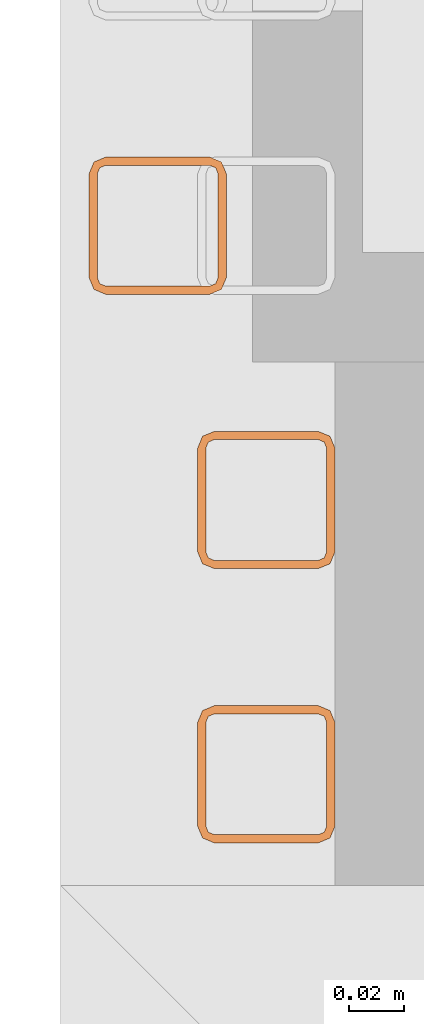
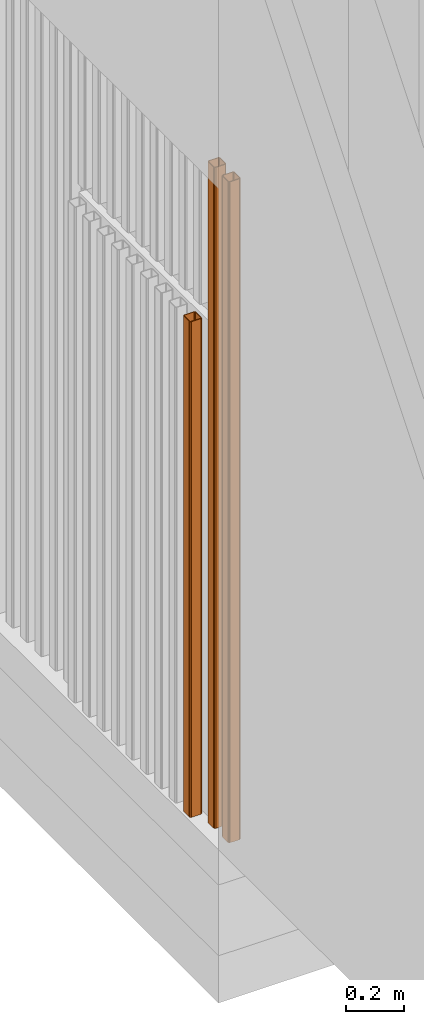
# One storey, part 62 of 112: 3 proxies.
"""IFC2X3 building model written with IfcOpenShell, lengths in millimetres."""

from ifc_helpers import new_model, entity, si_unit, converted_unit, derived_unit, money_unit, direction, frame, origin_with_axes, place, context, subcontext, project, spatial, faceted_brep, source, transform, mapped, material, type_object, element, save


model = new_model("IFC2X3")

# Units and contexts
model_context = context("Model", 3, precision=0.01, world=origin_with_axes(), true_north=direction((0.0, 1.0)))
body_context = subcontext(model_context, "Body", "Model", "MODEL_VIEW")
ifc_project = project(units=[si_unit("LENGTHUNIT", "METRE", prefix="MILLI"), si_unit("AREAUNIT", "SQUARE_METRE"), si_unit("VOLUMEUNIT", "CUBIC_METRE"), converted_unit("PLANEANGLEUNIT", "DEGREE", entity("IfcPlaneAngleMeasure", 0.0174532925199), si_unit("PLANEANGLEUNIT", "RADIAN"), dimensions=[0, 0, 0, 0, 0, 0, 0]), si_unit("SOLIDANGLEUNIT", "STERADIAN"), money_unit("EUR"), converted_unit("TIMEUNIT", "Year", entity("IfcTimeMeasure", 31556926.0), si_unit("TIMEUNIT", "SECOND"), dimensions=[0, 0, 1, 0, 0, 0, 0]), si_unit("MASSUNIT", "GRAM", prefix="KILO"), si_unit("THERMODYNAMICTEMPERATUREUNIT", "DEGREE_CELSIUS"), si_unit("LUMINOUSINTENSITYUNIT", "LUMEN"), si_unit("ENERGYUNIT", "JOULE", prefix="MEGA"), derived_unit("THERMALCONDUCTANCEUNIT", [(si_unit("POWERUNIT", "WATT"), 1), (si_unit("LENGTHUNIT", "METRE"), -1), (si_unit("THERMODYNAMICTEMPERATUREUNIT", "KELVIN"), -1)]), derived_unit("SPECIFICHEATCAPACITYUNIT", [(si_unit("ENERGYUNIT", "JOULE"), 1), (si_unit("MASSUNIT", "GRAM", prefix="KILO"), -1), (si_unit("THERMODYNAMICTEMPERATUREUNIT", "KELVIN"), -1)]), derived_unit("MASSDENSITYUNIT", [(si_unit("MASSUNIT", "GRAM", prefix="KILO"), 1), (si_unit("VOLUMEUNIT", "CUBIC_METRE"), -1)])], contexts=[model_context])

# Site, building, storey
site_placement = place(None, origin_with_axes())
site = spatial("IfcSite", under=ifc_project, at=site_placement, Name="Politse- ja Piirivalveameti ning Päästeameti ühishoone", CompositionType="ELEMENT")
building_placement = place(site_placement, origin_with_axes())
building = spatial("IfcBuilding", under=site, at=building_placement, Name="Politse- ja Piirivalveameti ning Päästeameti ühishoone", CompositionType="ELEMENT")
storey_placement = place(building_placement, origin_with_axes())
storey = spatial("IfcBuildingStorey", under=building, at=storey_placement, Name="Esimene korrus", CompositionType="ELEMENT", Elevation=0.0)

# Proxies
ifc_material = material(Name="ET-05_Teras")
building_element_proxy_type = type_object("IfcBuildingElementProxyType", Name="SHS Cold-Formed Column 23", PredefinedType="NOTDEFINED")
shared_shape_1 = source(origin_with_axes(), body_context, "Body", "Brep", [
    faceted_brep([(19.0, -25.0, 0.0), (19.0, -25.0, 2800.0), (-19.0, -25.0, 2800.0), (-19.0, -25.0, 0.0), (23.2426406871, -23.2426406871, 0.0), (23.2426406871, -23.2426406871, 2800.0), (25.0, -19.0, 2800.0), (25.0, 19.0, 2800.0), (23.2426406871, 23.2426406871, 2800.0), (19.0, 25.0, 2800.0), (-19.0, 25.0, 2800.0), (-23.2426406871, 23.2426406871, 2800.0), (-25.0, 19.0, 2800.0), (-25.0, -19.0, 2800.0), (-23.2426406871, -23.2426406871, 2800.0), (19.0, -22.0, 2800.0), (-19.0, -22.0, 2800.0), (-21.1213203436, -21.1213203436, 2800.0), (-22.0, -19.0, 2800.0), (-22.0, 19.0, 2800.0), (-21.1213203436, 21.1213203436, 2800.0), (-19.0, 22.0, 2800.0), (19.0, 22.0, 2800.0), (21.1213203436, 21.1213203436, 2800.0), (22.0, 19.0, 2800.0), (22.0, -19.0, 2800.0), (21.1213203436, -21.1213203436, 2800.0), (-23.2426406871, -23.2426406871, 0.0), (-25.0, -19.0, 0.0), (-25.0, 19.0, 0.0), (-23.2426406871, 23.2426406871, 0.0), (-19.0, 25.0, 0.0), (19.0, 25.0, 0.0), (23.2426406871, 23.2426406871, 0.0), (25.0, 19.0, 0.0), (25.0, -19.0, 0.0), (19.0, -22.0, 0.0), (21.1213203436, -21.1213203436, 0.0), (22.0, -19.0, 0.0), (22.0, 19.0, 0.0), (21.1213203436, 21.1213203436, 0.0), (19.0, 22.0, 0.0), (-19.0, 22.0, 0.0), (-21.1213203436, 21.1213203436, 0.0), (-22.0, 19.0, 0.0), (-22.0, -19.0, 0.0), (-21.1213203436, -21.1213203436, 0.0), (-19.0, -22.0, 0.0)], [[[0, 1, 2, 3]], [[4, 5, 1, 0]], [[1, 5, 6, 7, 8, 9, 10, 11, 12, 13, 14, 2], [15, 16, 17, 18, 19, 20, 21, 22, 23, 24, 25, 26]], [[3, 2, 14, 27]], [[0, 3, 27, 28, 29, 30, 31, 32, 33, 34, 35, 4], [36, 37, 38, 39, 40, 41, 42, 43, 44, 45, 46, 47]], [[35, 6, 5, 4]], [[34, 7, 6, 35]], [[33, 8, 7, 34]], [[32, 9, 8, 33]], [[31, 10, 9, 32]], [[30, 11, 10, 31]], [[29, 12, 11, 30]], [[28, 13, 12, 29]], [[27, 14, 13, 28]], [[47, 16, 15, 36]], [[46, 17, 16, 47]], [[45, 18, 17, 46]], [[44, 19, 18, 45]], [[43, 20, 19, 44]], [[42, 21, 20, 43]], [[41, 22, 21, 42]], [[40, 23, 22, 41]], [[39, 24, 23, 40]], [[38, 25, 24, 39]], [[37, 26, 25, 38]], [[36, 15, 26, 37]]]),
])
for number, where, z_axis, x_axis in (
    (1, (-434.917037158, 16650.499859, 0.0), (0.0, 0.0, 1.0), (-1.0, -1.30049817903e-07, 0.0)),
    (2, (-434.917024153, 16550.499859, 0.0), (0.0, 0.0, 1.0), (-1.0, -1.30049817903e-07, 0.0)),
):
    element("IfcBuildingElementProxy", number, at=place(storey_placement, frame(where, z_axis=z_axis, x_axis=x_axis)), inside=storey, type_object=building_element_proxy_type, material=ifc_material, Name="Fassaadiribid", context=body_context, shape_type="MappedRepresentation", body=[
        mapped(shared_shape_1, transform((0.0, 0.0, 0.0))),
    ])
shared_shape_2 = source(origin_with_axes(), body_context, "Body", "Brep", [
    faceted_brep([(19.0, -25.0, 0.0), (19.0, -25.0, 2100.0), (-19.0, -25.0, 2100.0), (-19.0, -25.0, 0.0), (23.2426406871, -23.2426406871, 0.0), (23.2426406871, -23.2426406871, 2100.0), (25.0, -19.0, 2100.0), (25.0, 19.0, 2100.0), (23.2426406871, 23.2426406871, 2100.0), (19.0, 25.0, 2100.0), (-19.0, 25.0, 2100.0), (-23.2426406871, 23.2426406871, 2100.0), (-25.0, 19.0, 2100.0), (-25.0, -19.0, 2100.0), (-23.2426406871, -23.2426406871, 2100.0), (19.0, -22.0, 2100.0), (-19.0, -22.0, 2100.0), (-21.1213203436, -21.1213203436, 2100.0), (-22.0, -19.0, 2100.0), (-22.0, 19.0, 2100.0), (-21.1213203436, 21.1213203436, 2100.0), (-19.0, 22.0, 2100.0), (19.0, 22.0, 2100.0), (21.1213203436, 21.1213203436, 2100.0), (22.0, 19.0, 2100.0), (22.0, -19.0, 2100.0), (21.1213203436, -21.1213203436, 2100.0), (-23.2426406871, -23.2426406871, 0.0), (-25.0, -19.0, 0.0), (-25.0, 19.0, 0.0), (-23.2426406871, 23.2426406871, 0.0), (-19.0, 25.0, 0.0), (19.0, 25.0, 0.0), (23.2426406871, 23.2426406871, 0.0), (25.0, 19.0, 0.0), (25.0, -19.0, 0.0), (19.0, -22.0, 0.0), (21.1213203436, -21.1213203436, 0.0), (22.0, -19.0, 0.0), (22.0, 19.0, 0.0), (21.1213203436, 21.1213203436, 0.0), (19.0, 22.0, 0.0), (-19.0, 22.0, 0.0), (-21.1213203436, 21.1213203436, 0.0), (-22.0, 19.0, 0.0), (-22.0, -19.0, 0.0), (-21.1213203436, -21.1213203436, 0.0), (-19.0, -22.0, 0.0)], [[[0, 1, 2, 3]], [[4, 5, 1, 0]], [[1, 5, 6, 7, 8, 9, 10, 11, 12, 13, 14, 2], [15, 16, 17, 18, 19, 20, 21, 22, 23, 24, 25, 26]], [[3, 2, 14, 27]], [[0, 3, 27, 28, 29, 30, 31, 32, 33, 34, 35, 4], [36, 37, 38, 39, 40, 41, 42, 43, 44, 45, 46, 47]], [[35, 6, 5, 4]], [[34, 7, 6, 35]], [[33, 8, 7, 34]], [[32, 9, 8, 33]], [[31, 10, 9, 32]], [[30, 11, 10, 31]], [[29, 12, 11, 30]], [[28, 13, 12, 29]], [[27, 14, 13, 28]], [[47, 16, 15, 36]], [[46, 17, 16, 47]], [[45, 18, 17, 46]], [[44, 19, 18, 45]], [[43, 20, 19, 44]], [[42, 21, 20, 43]], [[41, 22, 21, 42]], [[40, 23, 22, 41]], [[39, 24, 23, 40]], [[38, 25, 24, 39]], [[37, 26, 25, 38]], [[36, 15, 26, 37]]]),
])
proxy_placement = place(storey_placement, frame((-474.500720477, 16750.500339, 0.0), z_axis=(0.0, 0.0, 1.0), x_axis=(-1.0, -1.30049817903e-07, 0.0)))
element("IfcBuildingElementProxy", 3, at=proxy_placement, inside=storey, type_object=building_element_proxy_type, material=ifc_material, Name="Fassaadiribid", context=body_context, shape_type="MappedRepresentation", body=[
    mapped(shared_shape_2, transform((0.0, 0.0, 0.0))),
])

save(model, "model.ifc")
